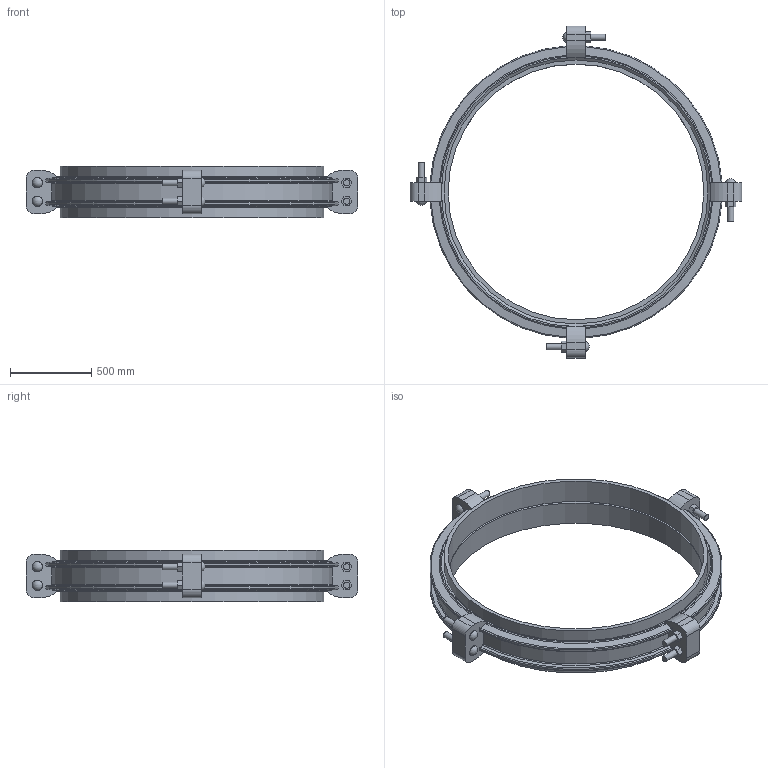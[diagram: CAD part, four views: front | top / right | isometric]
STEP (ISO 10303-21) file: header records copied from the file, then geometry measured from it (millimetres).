
FILE_DESCRIPTION(/* description */ ('VIC COUPLING FLEX STYLE W77 AGS VIC-RING ','CAx-IF Rec.Pracs.---Representation and Presentation of Product Manufacturing Information (PMI)---4.0---2014-10-13'),/* implementation_level */ '2;1');
FILE_NAME(/* name */ 'C:\Users\Vjadhav\AppData\Roaming\Autodesk\ApplicationPlugins\Victaulic.Temp\A52\Victaulic_Vic-Ring_Coupling Flexible_Style W77 (AGR)_64 (1600).stp',/* time_stamp */ '2021-12-20T11:07:09+06:00',/* author */ ('Vjadhav'),/* organization */ ('Victaulic'),/* preprocessor_version */ 'ST-DEVELOPER v17.2',/* originating_system */ 'Autodesk Inventor 2019',/* authorisation */ '');
FILE_SCHEMA (('AP242_MANAGED_MODEL_BASED_3D_ENGINEERING_MIM_LF { 1 0 10303 442 1 1 4 }'));
Length unit declared in the file: inch
Products named in the file (3): W77 VR-64.0; W77-VR-64.0; W77 VR-64.0_1
Assembly tree (3 placements, depth 2):
  W77 VR-64.0
    W77-VR-64.0
    W77 VR-64.0_1  x2
Bounding box: 2044.7 x 2044.7 x 316.74 mm (x, y, z)
Volume: 119320349.2 mm3; surface area: 7604794.4 mm2
Topology: 3 solids, 11 shells, 279 faces, 745 edges, 512 vertices
Faces by surface type: plane 138, cylinder 83, torus 32, cone 18, sphere 8
Full cylindrical faces by diameter (mm): 38.1 x16, 63.5 x8, 1574.8 x2, 1606.55 x1, 1625.6 x4
Entity records: 10061 total; most frequent: CARTESIAN_POINT 2672, ORIENTED_EDGE 1470, DIRECTION 1457, EDGE_CURVE 735, AXIS2_PLACEMENT_3D 537, VERTEX_POINT 504, LINE 383, VECTOR 383
